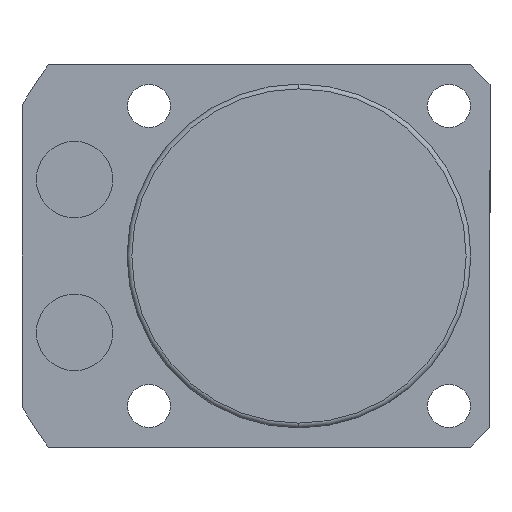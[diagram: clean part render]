
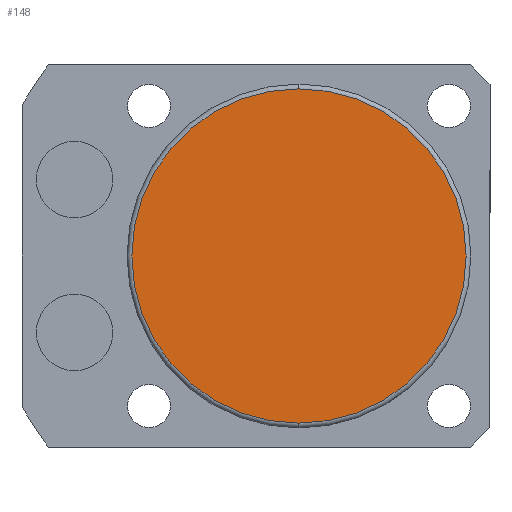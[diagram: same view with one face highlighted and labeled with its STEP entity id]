
A CAD part, front view. The second image highlights one B-rep face of the part: STEP entity #148.
In plain terms, the highlighted planar face has unit normal (0, -1, 0).
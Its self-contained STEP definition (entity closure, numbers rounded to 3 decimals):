
#148 = ADVANCED_FACE ( 'NONE', ( #654 ), #458, .T. ) ;
#159 = VERTEX_POINT ( 'NONE', #815 ) ;
#392 = CARTESIAN_POINT ( 'NONE',  ( 0., -120.5, 0. ) ) ;
#450 = DIRECTION ( 'NONE',  ( 0., -1., 0. ) ) ;
#458 = PLANE ( 'NONE',  #2155 ) ;
#564 = VERTEX_POINT ( 'NONE', #1725 ) ;
#647 = CARTESIAN_POINT ( 'NONE',  ( 0., -120.5, 0. ) ) ;
#654 = FACE_OUTER_BOUND ( 'NONE', #1690, .T. ) ;
#662 = EDGE_CURVE ( 'NONE', #159, #564, #1215, .T. ) ;
#740 = ORIENTED_EDGE ( 'NONE', *, *, #662, .T. ) ;
#766 = DIRECTION ( 'NONE',  ( 0., -1., 0. ) ) ;
#768 = CIRCLE ( 'NONE', #2221, 17.5 ) ;
#815 = CARTESIAN_POINT ( 'NONE',  ( 0., -120.5, -17.5 ) ) ;
#1021 = EDGE_CURVE ( 'NONE', #564, #159, #768, .T. ) ;
#1022 = DIRECTION ( 'NONE',  ( 0., 0., -1. ) ) ;
#1198 = DIRECTION ( 'NONE',  ( 0., 0., -1. ) ) ;
#1215 = CIRCLE ( 'NONE', #1232, 17.5 ) ;
#1232 = AXIS2_PLACEMENT_3D ( 'NONE', #647, #450, #1022 ) ;
#1355 = DIRECTION ( 'NONE',  ( 0., -1., 0. ) ) ;
#1435 = ORIENTED_EDGE ( 'NONE', *, *, #1021, .T. ) ;
#1658 = DIRECTION ( 'NONE',  ( 0., 0., -1. ) ) ;
#1690 = EDGE_LOOP ( 'NONE', ( #740, #1435 ) ) ;
#1725 = CARTESIAN_POINT ( 'NONE',  ( 0., -120.5, 17.5 ) ) ;
#1768 = CARTESIAN_POINT ( 'NONE',  ( 0., -120.5, 0. ) ) ;
#2155 = AXIS2_PLACEMENT_3D ( 'NONE', #1768, #1355, #1198 ) ;
#2221 = AXIS2_PLACEMENT_3D ( 'NONE', #392, #766, #1658 ) ;
